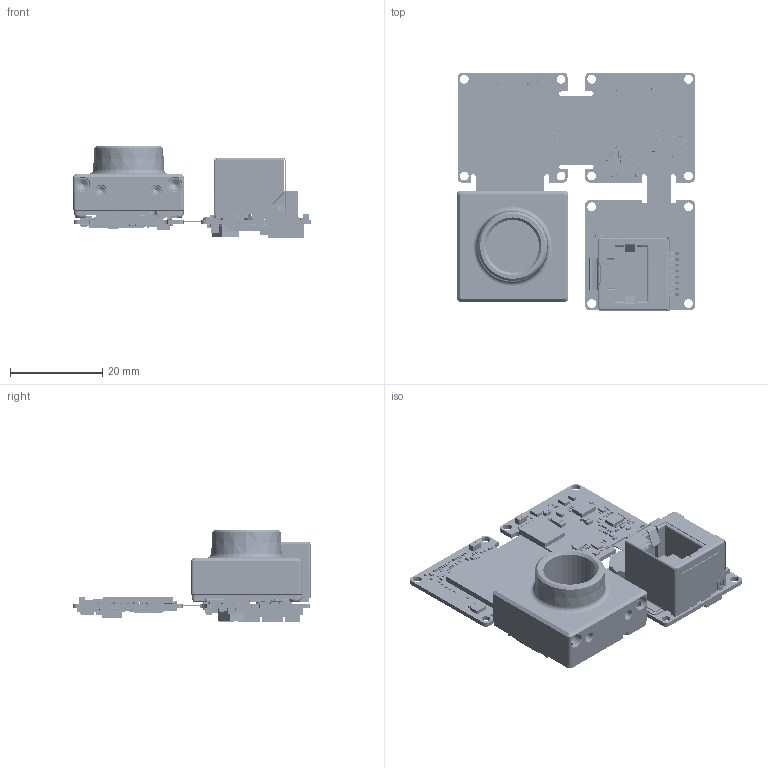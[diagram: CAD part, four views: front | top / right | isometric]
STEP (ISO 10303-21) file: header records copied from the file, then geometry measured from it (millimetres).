
FILE_DESCRIPTION (( 'STEP AP203' ), '1' );
FILE_NAME ('202-059-B.STEP', '2021-07-09T20:08:23', ( '' ), ( '' ), 'SwSTEP 2.0', 'SolidWorks 2017', '' );
FILE_SCHEMA (( 'CONFIG_CONTROL_DESIGN' ));
Products named in the file (1): 202-059-B
Bounding box: 51.61 x 51.7 x 19.86 mm (x, y, z)
Surface area: 17373.8 mm2 (no closed solid volume)
Topology: 0 solids, 671 shells, 22523 faces, 52854 edges, 28002 vertices
Faces by surface type: plane 9744, cylinder 8321, bspline 4328, cone 95, torus 35
Entity records: 644524 total; most frequent: CARTESIAN_POINT 167428, DIRECTION 100800, ORIENTED_EDGE 97088, EDGE_CURVE 48548, AXIS2_PLACEMENT_3D 34676, VECTOR 31448, LINE 31448, VERTEX_POINT 28002
